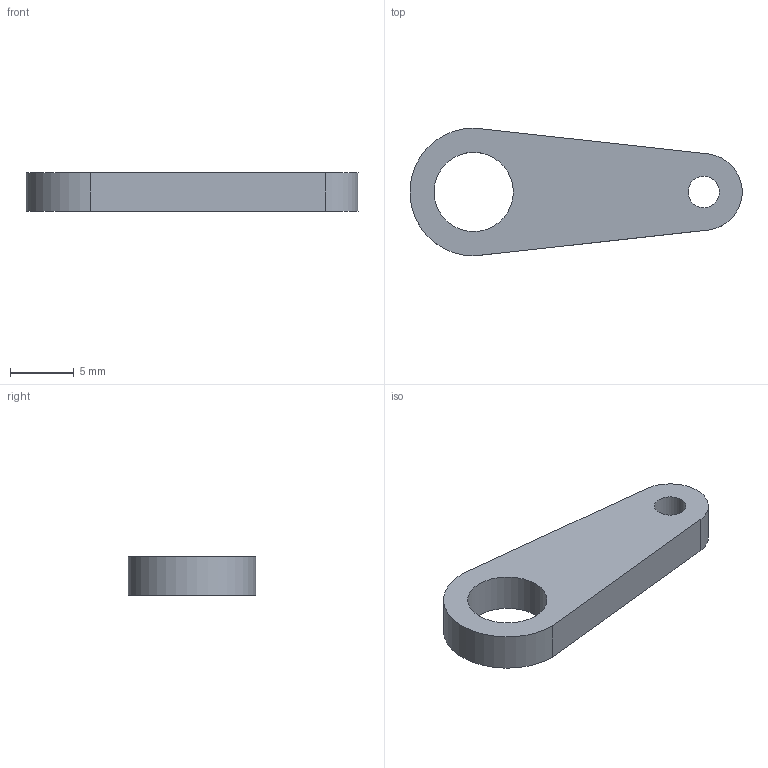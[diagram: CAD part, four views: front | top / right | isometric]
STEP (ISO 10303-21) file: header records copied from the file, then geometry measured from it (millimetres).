
FILE_DESCRIPTION(/* description */ ('Clamping Lever'),/* implementation_level */ '2;1');
FILE_NAME(/* name */ 'Z:\Werkstatt Server\Projekte\Atlas\Entwicklung u. Konstruktion\Konstruktion\CAD Daten\ITkPixToolV2.0\Baremodule Jig\ITPTv2.01.00.28.stp',/* time_stamp */ '2021-08-06T14:58:23+02:00',/* author */ ('Tim Kanngießer'),/* organization */ (''),/* preprocessor_version */ 'ST-DEVELOPER v18.1',/* originating_system */ 'Autodesk Inventor 2022',/* authorisation */ '');
FILE_SCHEMA (('AUTOMOTIVE_DESIGN { 1 0 10303 214 3 1 1 }'));
Length unit declared in the file: millimetre
Products named in the file (1): ITPTv2.0.00.28
Bounding box: 25.97 x 10 x 3 mm (x, y, z)
Volume: 488.5 mm3; surface area: 591.3 mm2
Topology: 1 solids, 1 shells, 8 faces, 18 edges, 12 vertices
Faces by surface type: cylinder 4, plane 4
Full cylindrical faces by diameter (mm): 2.459 x1, 6.2 x1
Entity records: 279 total; most frequent: DIRECTION 44, CARTESIAN_POINT 39, ORIENTED_EDGE 36, EDGE_CURVE 18, AXIS2_PLACEMENT_3D 17, EDGE_LOOP 12, VERTEX_POINT 12, LINE 10
